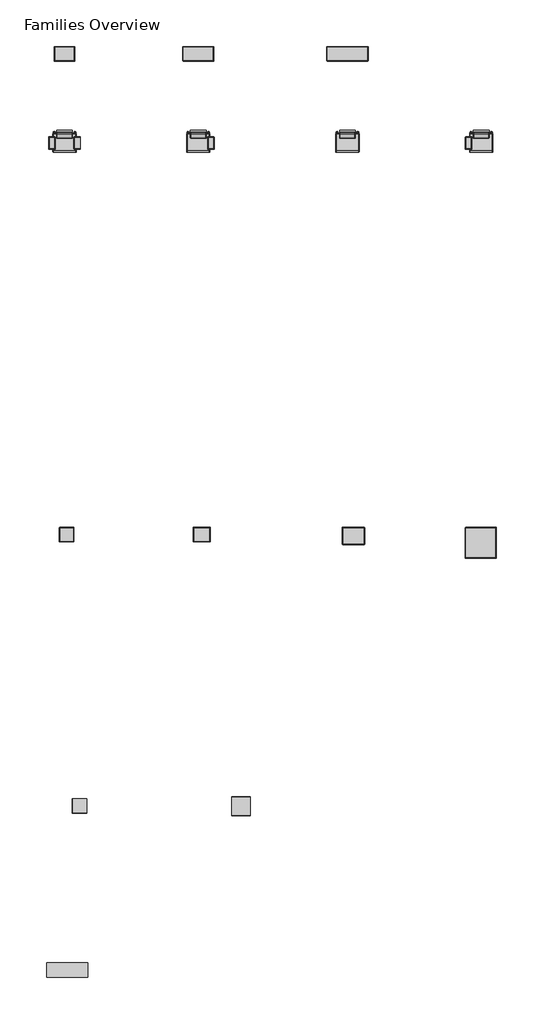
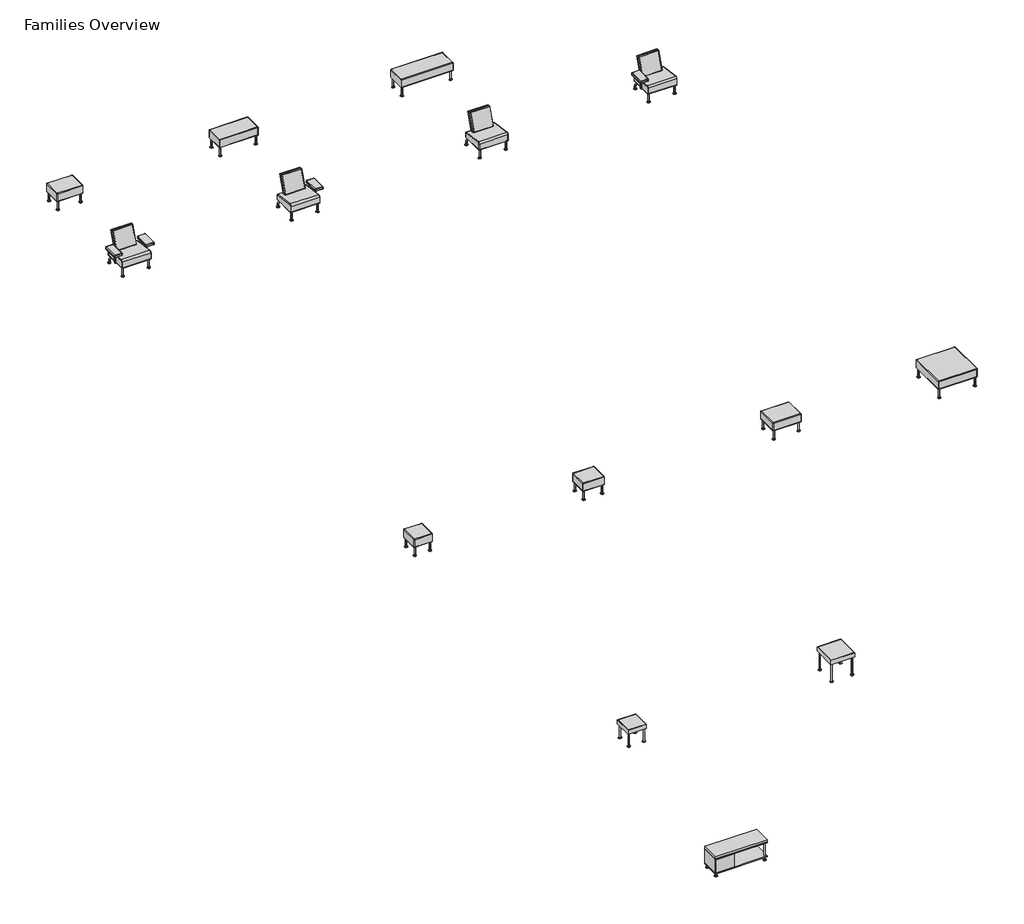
# One storey, incomplete: 14 furniture elements.
"""IFC4 building model written with IfcOpenShell, lengths in millimetres."""

from ifc_helpers import new_model, si_unit, origin, place, context, project, spatial, transform, mapped, element, save
from components import coalesse_am_seating_bench_sidewalk_24w_9e0a4b1f, coalesse_am_seating_bench_sidewalk_36w_3323d4bf, coalesse_am_seating_bench_sidewalk_48w_6bb7449c, coalesse_am_seating_loungechair_sidewalk_collaborative_both_6b42cbdd, coalesse_am_seating_loungechair_sidewalk_collaborative_both_0cfa3d09, coalesse_am_seating_loungechair_sidewalk_collaborative_left_ebcdef7f, coalesse_am_seating_loungechair_sidewalk_collaborative_left_422e2eee, coalesse_am_seating_loungechair_sidewalk_collaborative_no_c6145337, coalesse_am_seating_loungechair_sidewalk_collaborative_right_7e27c2d4, coalesse_am_seating_ottoman_sidewalk_6e0333ec, coalesse_am_seating_ottoman_sidewalk_751a6e7f, coalesse_am_seating_ottoman_sidewalk_9dda5adf, coalesse_am_seating_ottoman_sidewalk_d7b272b0, coalesse_am_table_occasional_sidewalk_db43c1d0, coalesse_am_table_occasional_sidewalk_21c9ca31, coalesse_am_table_occasional_sidewalk_credenza_20h_d59ae3a1

model = new_model("IFC4")

# Units and contexts
model_context = context("Model", 3, world=origin())
ifc_project = project(units=[si_unit("LENGTHUNIT", "METRE", prefix="MILLI")], contexts=[model_context])

# Site, building, storey
site = spatial("IfcSite", under=ifc_project)
building = spatial("IfcBuilding", under=site)
storey = spatial("IfcBuildingStorey", under=building, Name="Families Overview", Elevation=0.0)

# Furniture
placement = place(None, origin())
coalesse_am_seating_bench_sidewalk_24w_shape = coalesse_am_seating_bench_sidewalk_24w_9e0a4b1f(model_context)
element("IfcFurniture", 1, ObjectType="Coalesse_AM_Seating_Bench_Sidewalk : 24W", at=placement, inside=storey, context=model_context, shape_type="MappedRepresentation", body=[
    mapped(coalesse_am_seating_bench_sidewalk_24w_shape, transform((-23935.8544165, 25896.8877963, 0.0), x_axis=(1.0, 0.0, 0.0), y_axis=(0.0, 1.0, 0.0), z_axis=(0.0, 0.0, 1.0))),
])
coalesse_am_seating_bench_sidewalk_36w_shape = coalesse_am_seating_bench_sidewalk_36w_3323d4bf(model_context)
element("IfcFurniture", 2, ObjectType="Coalesse_AM_Seating_Bench_Sidewalk : 36W", at=placement, inside=storey, context=model_context, shape_type="MappedRepresentation", body=[
    mapped(coalesse_am_seating_bench_sidewalk_36w_shape, transform((-20125.8544165, 25896.8877963, 0.0), x_axis=(1.0, 0.0, 0.0), y_axis=(0.0, 1.0, 0.0), z_axis=(0.0, 0.0, 1.0))),
])
coalesse_am_seating_bench_sidewalk_48w_shape = coalesse_am_seating_bench_sidewalk_48w_6bb7449c(model_context)
element("IfcFurniture", 3, ObjectType="Coalesse_AM_Seating_Bench_Sidewalk : 48W", at=placement, inside=storey, context=model_context, shape_type="MappedRepresentation", body=[
    mapped(coalesse_am_seating_bench_sidewalk_48w_shape, transform((-15858.6544165, 25896.8877963, 0.0), x_axis=(1.0, 0.0, 0.0), y_axis=(0.0, 1.0, 0.0), z_axis=(0.0, 0.0, 1.0))),
])
coalesse_am_seating_loungechair_sidewalk_collaborative_both_shape = coalesse_am_seating_loungechair_sidewalk_collaborative_both_6b42cbdd(model_context)
coalesse_am_seating_loungechair_sidewalk_collaborative_both_2_shape = coalesse_am_seating_loungechair_sidewalk_collaborative_both_0cfa3d09(model_context)
element("IfcFurniture", 4, ObjectType="Coalesse_AM_Seating_LoungeChair_Sidewalk_Collaborative : Both Arm", at=placement, inside=storey, context=model_context, shape_type="MappedRepresentation", body=[
    mapped(coalesse_am_seating_loungechair_sidewalk_collaborative_both_shape, transform((-23631.0544165, 22762.9014353, 0.0), x_axis=(1.0, 0.0, 0.0), y_axis=(0.0, 1.0, 0.0), z_axis=(0.0, 0.0, 1.0))),
    mapped(coalesse_am_seating_loungechair_sidewalk_collaborative_both_2_shape, transform((-23631.0544165, 22762.9014353, 0.0), x_axis=(1.0, 0.0, 0.0), y_axis=(0.0, 1.0, 0.0), z_axis=(0.0, 0.0, 1.0))),
])
coalesse_am_seating_loungechair_sidewalk_collaborative_left_shape = coalesse_am_seating_loungechair_sidewalk_collaborative_left_ebcdef7f(model_context)
coalesse_am_seating_loungechair_sidewalk_collaborative_left_2_shape = coalesse_am_seating_loungechair_sidewalk_collaborative_left_422e2eee(model_context)
element("IfcFurniture", 5, ObjectType="Coalesse_AM_Seating_LoungeChair_Sidewalk_Collaborative : Left Arm", at=placement, inside=storey, context=model_context, shape_type="MappedRepresentation", body=[
    mapped(coalesse_am_seating_loungechair_sidewalk_collaborative_left_shape, transform((-19668.6544165, 22762.9014353, 0.0), x_axis=(1.0, 0.0, 0.0), y_axis=(0.0, 1.0, 0.0), z_axis=(0.0, 0.0, 1.0))),
    mapped(coalesse_am_seating_loungechair_sidewalk_collaborative_left_2_shape, transform((-19668.6544165, 22762.9014353, 0.0), x_axis=(1.0, 0.0, 0.0), y_axis=(0.0, 1.0, 0.0), z_axis=(0.0, 0.0, 1.0))),
])
coalesse_am_seating_loungechair_sidewalk_collaborative_no_shape = coalesse_am_seating_loungechair_sidewalk_collaborative_no_c6145337(model_context)
element("IfcFurniture", 6, ObjectType="Coalesse_AM_Seating_LoungeChair_Sidewalk_Collaborative : No Arm", at=placement, inside=storey, context=model_context, shape_type="MappedRepresentation", body=[
    mapped(coalesse_am_seating_loungechair_sidewalk_collaborative_no_shape, transform((-15249.0544165, 22762.9014353, 0.0), x_axis=(1.0, 0.0, 0.0), y_axis=(0.0, 1.0, 0.0), z_axis=(0.0, 0.0, 1.0))),
])
coalesse_am_seating_loungechair_sidewalk_collaborative_right_shape = coalesse_am_seating_loungechair_sidewalk_collaborative_right_7e27c2d4(model_context)
element("IfcFurniture", 7, ObjectType="Coalesse_AM_Seating_LoungeChair_Sidewalk_Collaborative : Right Arm", at=placement, inside=storey, context=model_context, shape_type="MappedRepresentation", body=[
    mapped(coalesse_am_seating_loungechair_sidewalk_collaborative_right_shape, transform((-11286.6544165, 22762.9014353, 0.0), x_axis=(1.0, 0.0, 0.0), y_axis=(0.0, 1.0, 0.0), z_axis=(0.0, 0.0, 1.0))),
    mapped(coalesse_am_seating_loungechair_sidewalk_collaborative_left_2_shape, transform((-11286.6544165, 22762.9014353, 0.0), x_axis=(1.0, 0.0, 0.0), y_axis=(0.0, 1.0, 0.0), z_axis=(0.0, 0.0, 1.0))),
])
coalesse_am_seating_ottoman_sidewalk_shape = coalesse_am_seating_ottoman_sidewalk_6e0333ec(model_context)
element("IfcFurniture", 8, ObjectType="Coalesse_AM_Seating_Ottoman_Sidewalk : 17D x 17W", at=placement, inside=storey, context=model_context, shape_type="MappedRepresentation", body=[
    mapped(coalesse_am_seating_ottoman_sidewalk_shape, transform((-23783.4544165, 11649.3559916, 0.0), x_axis=(1.0, 0.0, 0.0), y_axis=(0.0, 1.0, 0.0), z_axis=(0.0, 0.0, 1.0))),
])
coalesse_am_seating_ottoman_sidewalk_2_shape = coalesse_am_seating_ottoman_sidewalk_751a6e7f(model_context)
element("IfcFurniture", 9, ObjectType="Coalesse_AM_Seating_Ottoman_Sidewalk : 17D x 20W", at=placement, inside=storey, context=model_context, shape_type="MappedRepresentation", body=[
    mapped(coalesse_am_seating_ottoman_sidewalk_2_shape, transform((-19821.0544165, 11649.3559916, 0.0), x_axis=(1.0, 0.0, 0.0), y_axis=(0.0, 1.0, 0.0), z_axis=(0.0, 0.0, 1.0))),
])
coalesse_am_seating_ottoman_sidewalk_3_shape = coalesse_am_seating_ottoman_sidewalk_9dda5adf(model_context)
element("IfcFurniture", 10, ObjectType="Coalesse_AM_Seating_Ottoman_Sidewalk : 20D x 26W", at=placement, inside=storey, context=model_context, shape_type="MappedRepresentation", body=[
    mapped(coalesse_am_seating_ottoman_sidewalk_3_shape, transform((-15401.4544165, 11649.3559916, 0.0), x_axis=(1.0, 0.0, 0.0), y_axis=(0.0, 1.0, 0.0), z_axis=(0.0, 0.0, 1.0))),
])
coalesse_am_seating_ottoman_sidewalk_4_shape = coalesse_am_seating_ottoman_sidewalk_d7b272b0(model_context)
element("IfcFurniture", 11, ObjectType="Coalesse_AM_Seating_Ottoman_Sidewalk : 36D x 36W", at=placement, inside=storey, context=model_context, shape_type="MappedRepresentation", body=[
    mapped(coalesse_am_seating_ottoman_sidewalk_4_shape, transform((-11754.2833876, 11649.3559916, 0.0), x_axis=(1.0, 0.0, 0.0), y_axis=(0.0, 1.0, 0.0), z_axis=(0.0, 0.0, 1.0))),
])
coalesse_am_table_occasional_sidewalk_shape = coalesse_am_table_occasional_sidewalk_db43c1d0(model_context)
element("IfcFurniture", 12, ObjectType="Coalesse_AM_Table_Occasional_Sidewalk : 17D x 17W x 17H", at=placement, inside=storey, context=model_context, shape_type="MappedRepresentation", body=[
    mapped(coalesse_am_table_occasional_sidewalk_shape, transform((-22935.2534839, 3480.3909416, 0.0), x_axis=(1.0, 0.0, 0.0), y_axis=(0.0, 1.0, 0.0), z_axis=(0.0, 0.0, 1.0))),
])
coalesse_am_table_occasional_sidewalk_2_shape = coalesse_am_table_occasional_sidewalk_21c9ca31(model_context)
element("IfcFurniture", 13, ObjectType="Coalesse_AM_Table_Occasional_Sidewalk : 22D x 22W x 22H", at=placement, inside=storey, context=model_context, shape_type="MappedRepresentation", body=[
    mapped(coalesse_am_table_occasional_sidewalk_2_shape, transform((-18217.6387257, 3531.1909416, 0.0), x_axis=(1.0, 0.0, 0.0), y_axis=(0.0, 1.0, 0.0), z_axis=(0.0, 0.0, 1.0))),
])
coalesse_am_table_occasional_sidewalk_credenza_20h_shape = coalesse_am_table_occasional_sidewalk_credenza_20h_d59ae3a1(model_context)
element("IfcFurniture", 14, ObjectType="Coalesse_AM_Table_Occasional_Sidewalk_Credenza : 20H", at=placement, inside=storey, context=model_context, shape_type="MappedRepresentation", body=[
    mapped(coalesse_am_table_occasional_sidewalk_credenza_20h_shape, transform((-22894.7326072, -1768.073972, 0.0), x_axis=(1.0, 0.0, 0.0), y_axis=(0.0, 1.0, 0.0), z_axis=(0.0, 0.0, 1.0))),
])

save(model, "model.ifc")
